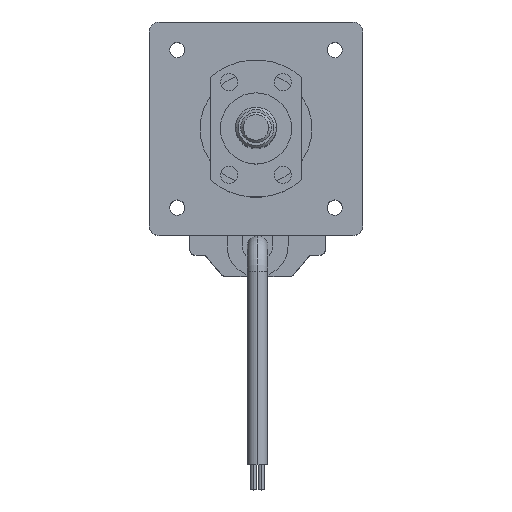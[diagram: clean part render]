
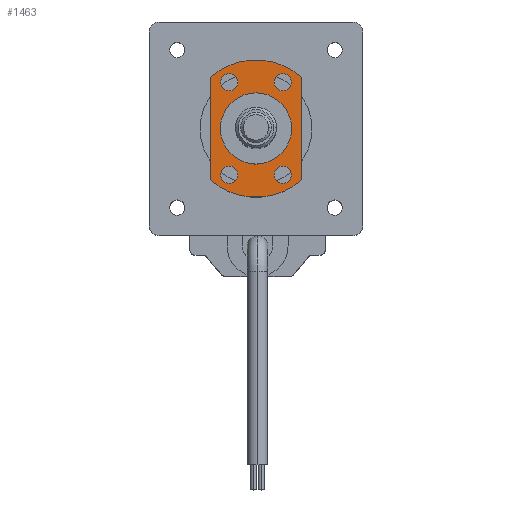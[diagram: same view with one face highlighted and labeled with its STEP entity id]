
A CAD part, top view. The second image highlights one B-rep face of the part: STEP entity #1463.
In plain terms, the highlighted planar face has unit normal (0, 0, 1).
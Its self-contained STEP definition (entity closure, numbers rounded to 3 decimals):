
#2 = AXIS2_PLACEMENT_3D ( 'NONE', #3911, #4672, #2356 ) ;
#11 = VERTEX_POINT ( 'NONE', #2773 ) ;
#52 = CARTESIAN_POINT ( 'NONE',  ( 5.25, -9.093, 69. ) ) ;
#164 = CARTESIAN_POINT ( 'NONE',  ( -6.95, 9.093, 69. ) ) ;
#175 = ORIENTED_EDGE ( 'NONE', *, *, #3890, .F. ) ;
#303 = CARTESIAN_POINT ( 'NONE',  ( -9., -10.062, 69. ) ) ;
#308 = VERTEX_POINT ( 'NONE', #4914 ) ;
#332 = EDGE_LOOP ( 'NONE', ( #4412, #990 ) ) ;
#482 = DIRECTION ( 'NONE',  ( 0., 0., 1. ) ) ;
#517 = EDGE_CURVE ( 'NONE', #3081, #3612, #4031, .T. ) ;
#547 = CARTESIAN_POINT ( 'NONE',  ( 9., 10.062, 69. ) ) ;
#548 = CARTESIAN_POINT ( 'NONE',  ( -3.55, 9.093, 69. ) ) ;
#597 = DIRECTION ( 'NONE',  ( 1., 0., 0. ) ) ;
#629 = VECTOR ( 'NONE', #3314, 1000. ) ;
#673 = AXIS2_PLACEMENT_3D ( 'NONE', #4908, #2220, #2594 ) ;
#724 = DIRECTION ( 'NONE',  ( 0., 0., 1. ) ) ;
#741 = ORIENTED_EDGE ( 'NONE', *, *, #4121, .F. ) ;
#751 = VERTEX_POINT ( 'NONE', #303 ) ;
#755 = CIRCLE ( 'NONE', #800, 1.7 ) ;
#756 = CARTESIAN_POINT ( 'NONE',  ( 5.25, 9.093, 69. ) ) ;
#800 = AXIS2_PLACEMENT_3D ( 'NONE', #2064, #2088, #886 ) ;
#853 = CARTESIAN_POINT ( 'NONE',  ( -9., 10.062, 69. ) ) ;
#886 = DIRECTION ( 'NONE',  ( 1., 0., 0. ) ) ;
#913 = EDGE_CURVE ( 'NONE', #3807, #4826, #3473, .T. ) ;
#970 = CARTESIAN_POINT ( 'NONE',  ( 3.55, -9.093, 69. ) ) ;
#990 = ORIENTED_EDGE ( 'NONE', *, *, #2607, .F. ) ;
#1012 = EDGE_LOOP ( 'NONE', ( #2621, #1698, #1242, #3550 ) ) ;
#1079 = VERTEX_POINT ( 'NONE', #1233 ) ;
#1124 = CIRCLE ( 'NONE', #2, 13.5 ) ;
#1173 = FACE_BOUND ( 'NONE', #332, .T. ) ;
#1198 = DIRECTION ( 'NONE',  ( 0., 0., 1. ) ) ;
#1233 = CARTESIAN_POINT ( 'NONE',  ( -9., 10.062, 69. ) ) ;
#1237 = DIRECTION ( 'NONE',  ( 1., 0., 0. ) ) ;
#1242 = ORIENTED_EDGE ( 'NONE', *, *, #1435, .T. ) ;
#1308 = DIRECTION ( 'NONE',  ( 1., 0., 0. ) ) ;
#1333 = CARTESIAN_POINT ( 'NONE',  ( 9., 10.062, 69. ) ) ;
#1375 = CARTESIAN_POINT ( 'NONE',  ( -6.95, -9.093, 69. ) ) ;
#1435 = EDGE_CURVE ( 'NONE', #2197, #1079, #2914, .T. ) ;
#1463 = ADVANCED_FACE ( 'NONE', ( #1817, #1173, #2558, #3787, #4310, #2230 ), #2742, .T. ) ;
#1509 = DIRECTION ( 'NONE',  ( 1., 0., 0. ) ) ;
#1522 = DIRECTION ( 'NONE',  ( 0., 0., 1. ) ) ;
#1535 = CIRCLE ( 'NONE', #5058, 1.7 ) ;
#1562 = CARTESIAN_POINT ( 'NONE',  ( 0., 0., 69. ) ) ;
#1627 = DIRECTION ( 'NONE',  ( 1., 0., 0. ) ) ;
#1644 = AXIS2_PLACEMENT_3D ( 'NONE', #3873, #4613, #3065 ) ;
#1662 = VECTOR ( 'NONE', #4364, 1000. ) ;
#1698 = ORIENTED_EDGE ( 'NONE', *, *, #2431, .T. ) ;
#1716 = CARTESIAN_POINT ( 'NONE',  ( 6.95, -9.093, 69. ) ) ;
#1795 = EDGE_LOOP ( 'NONE', ( #5030, #741 ) ) ;
#1817 = FACE_BOUND ( 'NONE', #3432, .T. ) ;
#1966 = EDGE_CURVE ( 'NONE', #751, #308, #1124, .T. ) ;
#2010 = DIRECTION ( 'NONE',  ( 1., 0., 0. ) ) ;
#2016 = EDGE_CURVE ( 'NONE', #2389, #11, #755, .T. ) ;
#2053 = LINE ( 'NONE', #853, #1662 ) ;
#2064 = CARTESIAN_POINT ( 'NONE',  ( -5.25, -9.093, 69. ) ) ;
#2083 = CARTESIAN_POINT ( 'NONE',  ( 6.95, 9.093, 69. ) ) ;
#2088 = DIRECTION ( 'NONE',  ( 0., 0., 1. ) ) ;
#2137 = EDGE_LOOP ( 'NONE', ( #175, #4203 ) ) ;
#2197 = VERTEX_POINT ( 'NONE', #547 ) ;
#2207 = CIRCLE ( 'NONE', #2618, 1.7 ) ;
#2220 = DIRECTION ( 'NONE',  ( 0., 0., 1. ) ) ;
#2230 = FACE_BOUND ( 'NONE', #2716, .T. ) ;
#2356 = DIRECTION ( 'NONE',  ( 1., 0., 0. ) ) ;
#2389 = VERTEX_POINT ( 'NONE', #1375 ) ;
#2431 = EDGE_CURVE ( 'NONE', #308, #2197, #4711, .T. ) ;
#2526 = DIRECTION ( 'NONE',  ( 0., 0., 1. ) ) ;
#2558 = FACE_OUTER_BOUND ( 'NONE', #1012, .T. ) ;
#2594 = DIRECTION ( 'NONE',  ( 1., 0., 0. ) ) ;
#2607 = EDGE_CURVE ( 'NONE', #2902, #3900, #1535, .T. ) ;
#2618 = AXIS2_PLACEMENT_3D ( 'NONE', #756, #724, #3479 ) ;
#2621 = ORIENTED_EDGE ( 'NONE', *, *, #1966, .T. ) ;
#2716 = EDGE_LOOP ( 'NONE', ( #4355, #4305 ) ) ;
#2742 = PLANE ( 'NONE',  #4087 ) ;
#2758 = EDGE_CURVE ( 'NONE', #1079, #751, #2053, .T. ) ;
#2772 = DIRECTION ( 'NONE',  ( 0., 0., 1. ) ) ;
#2773 = CARTESIAN_POINT ( 'NONE',  ( -3.55, -9.093, 69. ) ) ;
#2786 = VERTEX_POINT ( 'NONE', #2083 ) ;
#2813 = AXIS2_PLACEMENT_3D ( 'NONE', #3247, #482, #1627 ) ;
#2864 = DIRECTION ( 'NONE',  ( 1., 0., 0. ) ) ;
#2902 = VERTEX_POINT ( 'NONE', #548 ) ;
#2914 = CIRCLE ( 'NONE', #3820, 13.5 ) ;
#2931 = CIRCLE ( 'NONE', #1644, 1.7 ) ;
#2971 = CARTESIAN_POINT ( 'NONE',  ( 5.25, 9.093, 69. ) ) ;
#3065 = DIRECTION ( 'NONE',  ( 1., 0., 0. ) ) ;
#3081 = VERTEX_POINT ( 'NONE', #3633 ) ;
#3188 = DIRECTION ( 'NONE',  ( 0., 0., 1. ) ) ;
#3247 = CARTESIAN_POINT ( 'NONE',  ( 0., 0., 69. ) ) ;
#3258 = DIRECTION ( 'NONE',  ( 0., 0., 1. ) ) ;
#3314 = DIRECTION ( 'NONE',  ( 0., 1., 0. ) ) ;
#3334 = AXIS2_PLACEMENT_3D ( 'NONE', #3862, #1522, #1509 ) ;
#3432 = EDGE_LOOP ( 'NONE', ( #4540, #5007 ) ) ;
#3467 = AXIS2_PLACEMENT_3D ( 'NONE', #52, #3188, #1237 ) ;
#3473 = CIRCLE ( 'NONE', #3467, 1.7 ) ;
#3479 = DIRECTION ( 'NONE',  ( 1., 0., 0. ) ) ;
#3486 = CIRCLE ( 'NONE', #3855, 1.7 ) ;
#3498 = CARTESIAN_POINT ( 'NONE',  ( 0., 0., 69. ) ) ;
#3550 = ORIENTED_EDGE ( 'NONE', *, *, #2758, .T. ) ;
#3612 = VERTEX_POINT ( 'NONE', #4989 ) ;
#3633 = CARTESIAN_POINT ( 'NONE',  ( -7., 0., 69. ) ) ;
#3766 = EDGE_CURVE ( 'NONE', #11, #2389, #5028, .T. ) ;
#3787 = FACE_BOUND ( 'NONE', #2137, .T. ) ;
#3807 = VERTEX_POINT ( 'NONE', #970 ) ;
#3820 = AXIS2_PLACEMENT_3D ( 'NONE', #3498, #2772, #2010 ) ;
#3829 = EDGE_CURVE ( 'NONE', #3612, #3081, #4025, .T. ) ;
#3855 = AXIS2_PLACEMENT_3D ( 'NONE', #2971, #2526, #597 ) ;
#3862 = CARTESIAN_POINT ( 'NONE',  ( -5.25, -9.093, 69. ) ) ;
#3873 = CARTESIAN_POINT ( 'NONE',  ( -5.25, 9.093, 69. ) ) ;
#3890 = EDGE_CURVE ( 'NONE', #4263, #2786, #3486, .T. ) ;
#3900 = VERTEX_POINT ( 'NONE', #164 ) ;
#3903 = EDGE_CURVE ( 'NONE', #3900, #2902, #2931, .T. ) ;
#3911 = CARTESIAN_POINT ( 'NONE',  ( 0., 0., 69. ) ) ;
#3978 = EDGE_CURVE ( 'NONE', #2786, #4263, #2207, .T. ) ;
#4025 = CIRCLE ( 'NONE', #673, 7. ) ;
#4031 = CIRCLE ( 'NONE', #2813, 7. ) ;
#4087 = AXIS2_PLACEMENT_3D ( 'NONE', #1562, #1198, #4296 ) ;
#4106 = AXIS2_PLACEMENT_3D ( 'NONE', #4663, #4389, #2864 ) ;
#4121 = EDGE_CURVE ( 'NONE', #4826, #3807, #4801, .T. ) ;
#4203 = ORIENTED_EDGE ( 'NONE', *, *, #3978, .F. ) ;
#4263 = VERTEX_POINT ( 'NONE', #4720 ) ;
#4296 = DIRECTION ( 'NONE',  ( 1., 0., 0. ) ) ;
#4305 = ORIENTED_EDGE ( 'NONE', *, *, #3829, .F. ) ;
#4310 = FACE_BOUND ( 'NONE', #1795, .T. ) ;
#4355 = ORIENTED_EDGE ( 'NONE', *, *, #517, .F. ) ;
#4364 = DIRECTION ( 'NONE',  ( 0., -1., 0. ) ) ;
#4389 = DIRECTION ( 'NONE',  ( 0., 0., 1. ) ) ;
#4412 = ORIENTED_EDGE ( 'NONE', *, *, #3903, .F. ) ;
#4540 = ORIENTED_EDGE ( 'NONE', *, *, #2016, .F. ) ;
#4613 = DIRECTION ( 'NONE',  ( 0., 0., 1. ) ) ;
#4663 = CARTESIAN_POINT ( 'NONE',  ( 5.25, -9.093, 69. ) ) ;
#4672 = DIRECTION ( 'NONE',  ( 0., 0., 1. ) ) ;
#4711 = LINE ( 'NONE', #1333, #629 ) ;
#4720 = CARTESIAN_POINT ( 'NONE',  ( 3.55, 9.093, 69. ) ) ;
#4743 = CARTESIAN_POINT ( 'NONE',  ( -5.25, 9.093, 69. ) ) ;
#4801 = CIRCLE ( 'NONE', #4106, 1.7 ) ;
#4826 = VERTEX_POINT ( 'NONE', #1716 ) ;
#4908 = CARTESIAN_POINT ( 'NONE',  ( 0., 0., 69. ) ) ;
#4914 = CARTESIAN_POINT ( 'NONE',  ( 9., -10.062, 69. ) ) ;
#4989 = CARTESIAN_POINT ( 'NONE',  ( 7., 0., 69. ) ) ;
#5007 = ORIENTED_EDGE ( 'NONE', *, *, #3766, .F. ) ;
#5028 = CIRCLE ( 'NONE', #3334, 1.7 ) ;
#5030 = ORIENTED_EDGE ( 'NONE', *, *, #913, .F. ) ;
#5058 = AXIS2_PLACEMENT_3D ( 'NONE', #4743, #3258, #1308 ) ;
